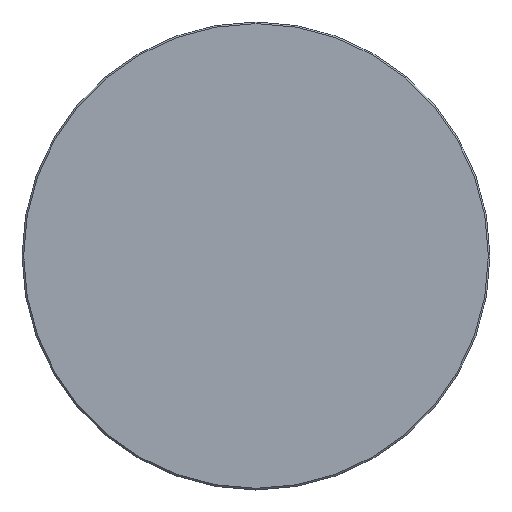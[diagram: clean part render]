
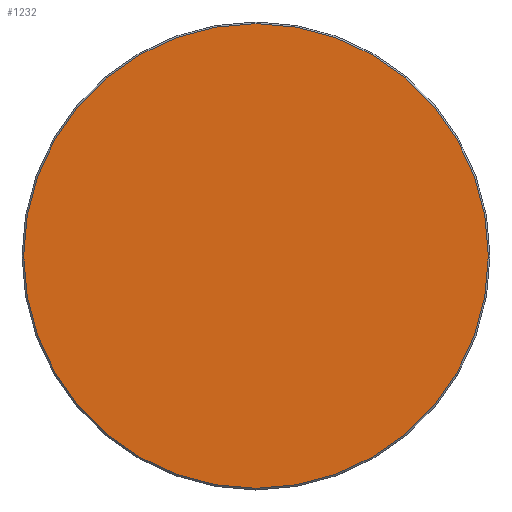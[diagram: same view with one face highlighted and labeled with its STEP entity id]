
A CAD part, top view. The second image highlights one B-rep face of the part: STEP entity #1232.
In plain terms, the highlighted planar face has unit normal (0, 0, 1).
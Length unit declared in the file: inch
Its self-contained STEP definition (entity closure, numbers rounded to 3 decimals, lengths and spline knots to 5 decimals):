
#451=CARTESIAN_POINT('',(0.,0.,
0.));
#452=DIRECTION('',(0.,0.,1.));
#453=DIRECTION('',(1.,0.,0.));
#454=AXIS2_PLACEMENT_3D('',#451,#452,#453);
#456=CARTESIAN_POINT('',(0.,0.,
0.));
#457=DIRECTION('',(0.,0.,1.));
#458=DIRECTION('',(-1.,0.,0.));
#459=AXIS2_PLACEMENT_3D('',#456,#457,#458);
#612=CARTESIAN_POINT('',(2.855,0.,0.));
#613=CARTESIAN_POINT('',(-2.855,0.,0.));
#614=VERTEX_POINT('',#612);
#615=VERTEX_POINT('',#613);
#1222=CARTESIAN_POINT('',(0.,0.,0.));
#1223=DIRECTION('',(0.,0.,-1.));
#1224=DIRECTION('',(-1.,0.,0.));
#1225=AXIS2_PLACEMENT_3D('',#1222,#1223,#1224);
#1226=PLANE('',#1225);
#1228=ORIENTED_EDGE('',*,*,#1227,.F.);
#1229=ORIENTED_EDGE('',*,*,#1212,.F.);
#1230=EDGE_LOOP('',(#1228,#1229));
#1231=FACE_OUTER_BOUND('',#1230,.F.);
#1232=ADVANCED_FACE('',(#1231),#1226,.F.);
#455=CIRCLE('',#454,2.855);
#460=CIRCLE('',#459,2.855);
#1212=EDGE_CURVE('',#615,#614,#460,.T.);
#1227=EDGE_CURVE('',#614,#615,#455,.T.);
